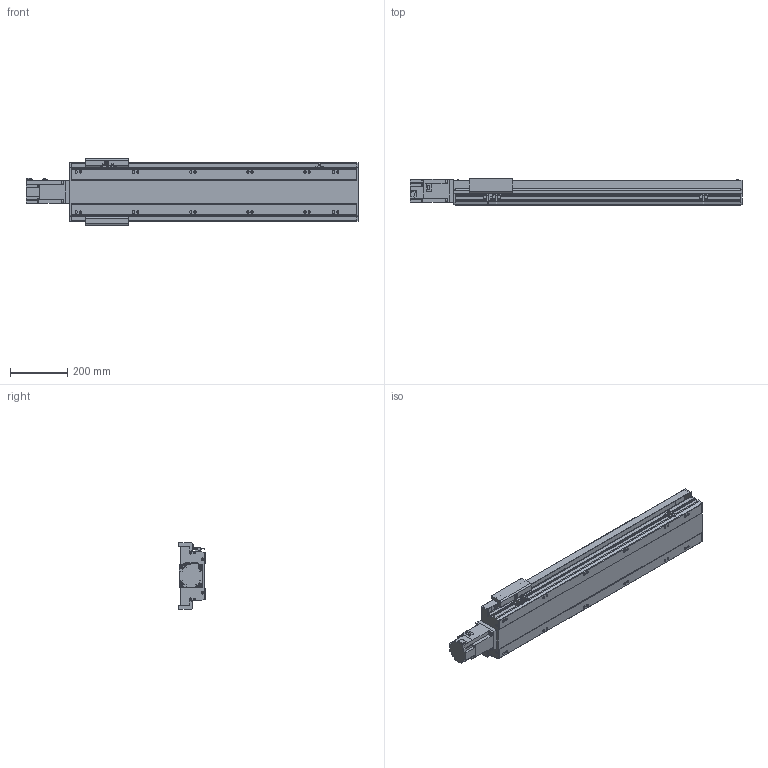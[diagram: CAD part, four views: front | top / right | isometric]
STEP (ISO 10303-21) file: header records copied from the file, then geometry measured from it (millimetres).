
FILE_DESCRIPTION(/* description */ ('STEP AP214'),/* implementation_level */ '2;1');
FILE_NAME(/* name */ 'PSM170-L10-S750-BC-T75-C1-N(0)',/* time_stamp */ '2022-06-13T03:24:43+02:00',/* author */ ('License CC BY-ND 4.0'),/* organization */ ('CADENAS'),/* preprocessor_version */ 'ST-DEVELOPER v18.102',/* originating_system */ 'PARTsolutions',/* authorisation */ ' ');
FILE_SCHEMA (('AUTOMOTIVE_DESIGN {1 0 10303 214 3 1 1}'));
Length unit declared in the file: millimetre
Products named in the file (8): PSM170-L10-S750-BC-T75-C1-N(0); PSM-Sensor; PSM140-S750-992.5; T75-p1; PSM170_body2; PSM170_body3; PSM170-S750_body1; PSM170-L10-S750-BC-T75-C1-N(0)_dummy
Assembly tree (11 placements, depth 2):
  PSM170-L10-S750-BC-T75-C1-N(0)
    PSM-Sensor  x3
    PSM140-S750-992.5  x3
    T75-p1
    PSM170_body2
    PSM170_body3
    PSM170-S750_body1
    PSM170-L10-S750-BC-T75-C1-N(0)_dummy
Bounding box: 1161.3 x 92 x 233 mm (x, y, z)
Volume: 7020484.9 mm3; surface area: 1345925.6 mm2
Topology: 10 solids, 10 shells, 1059 faces, 2828 edges, 1841 vertices
Faces by surface type: plane 660, cylinder 321, cone 64, torus 14
Full cylindrical faces by diameter (mm): 2.8 x3, 3.08 x1, 4.134 x4, 4.5 x12, 4.6 x3, 5.7 x2, 6 x9, 6.647 x20, 7 x8, 7.6 x4, 8 x8, 8.5 x12, 10 x4, 14 x12, 45 x1, 70 x1
Entity records: 27883 total; most frequent: CARTESIAN_POINT 5142, DIRECTION 4648, ORIENTED_EDGE 4460, EDGE_CURVE 2230, AXIS2_PLACEMENT_3D 1573, VERTEX_POINT 1562, LINE 1502, VECTOR 1502
